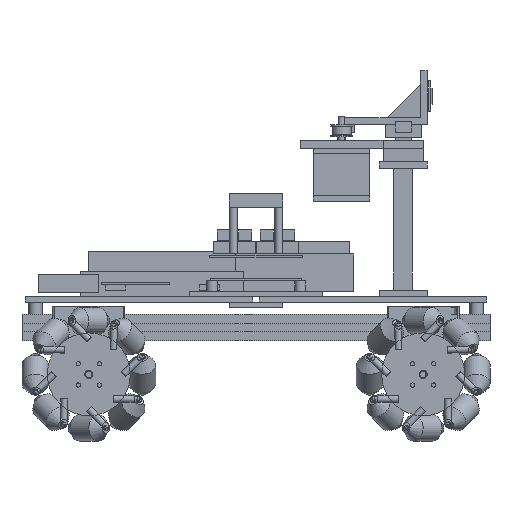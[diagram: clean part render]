
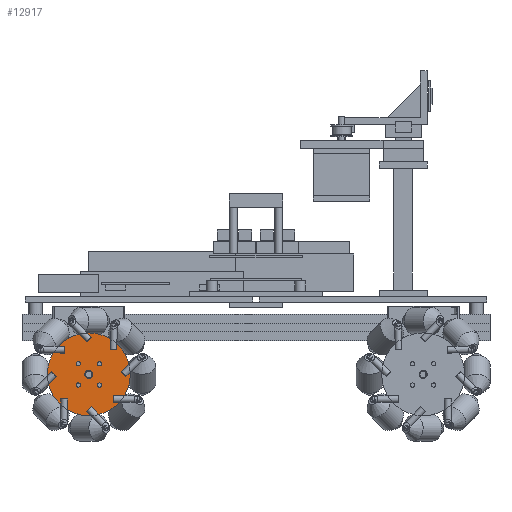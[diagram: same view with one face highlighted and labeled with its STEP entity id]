
A CAD part, front view. The second image highlights one B-rep face of the part: STEP entity #12917.
In plain terms, the highlighted planar face has unit normal (0, -1, 0).
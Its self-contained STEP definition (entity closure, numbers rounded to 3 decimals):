
#12833 = EDGE_CURVE('',#12834,#12834,#12836,.T.);
#12834 = VERTEX_POINT('',#12835);
#12835 = CARTESIAN_POINT('',(31.,-14.,0.));
#12836 = SURFACE_CURVE('',#12837,(#12842,#12854),.PCURVE_S1.);
#12837 = CIRCLE('',#12838,31.);
#12838 = AXIS2_PLACEMENT_3D('',#12839,#12840,#12841);
#12839 = CARTESIAN_POINT('',(0.,-14.,0.));
#12840 = DIRECTION('',(0.,-1.,0.));
#12841 = DIRECTION('',(1.,0.,0.));
#12842 = PCURVE('',#12843,#12848);
#12843 = CYLINDRICAL_SURFACE('',#12844,31.);
#12844 = AXIS2_PLACEMENT_3D('',#12845,#12846,#12847);
#12845 = CARTESIAN_POINT('',(0.,-11.,0.));
#12846 = DIRECTION('',(0.,-1.,0.));
#12847 = DIRECTION('',(1.,0.,0.));
#12848 = DEFINITIONAL_REPRESENTATION('',(#12849),#12853);
#12849 = LINE('',#12850,#12851);
#12850 = CARTESIAN_POINT('',(0.,3.));
#12851 = VECTOR('',#12852,1.);
#12852 = DIRECTION('',(1.,0.));
#12853 = ( GEOMETRIC_REPRESENTATION_CONTEXT(2) 
PARAMETRIC_REPRESENTATION_CONTEXT() REPRESENTATION_CONTEXT('2D SPACE',''
  ) );
#12854 = PCURVE('',#12855,#12860);
#12855 = PLANE('',#12856);
#12856 = AXIS2_PLACEMENT_3D('',#12857,#12858,#12859);
#12857 = CARTESIAN_POINT('',(0.,-14.,0.));
#12858 = DIRECTION('',(0.,-1.,0.));
#12859 = DIRECTION('',(1.,0.,0.));
#12860 = DEFINITIONAL_REPRESENTATION('',(#12861),#12865);
#12861 = CIRCLE('',#12862,31.);
#12862 = AXIS2_PLACEMENT_2D('',#12863,#12864);
#12863 = CARTESIAN_POINT('',(0.,0.));
#12864 = DIRECTION('',(1.,0.));
#12865 = ( GEOMETRIC_REPRESENTATION_CONTEXT(2) 
PARAMETRIC_REPRESENTATION_CONTEXT() REPRESENTATION_CONTEXT('2D SPACE',''
  ) );
#12917 = ADVANCED_FACE('',(#12918,#12921,#12952,#12983,#13014,#13045),
  #12855,.T.);
#12918 = FACE_BOUND('',#12919,.T.);
#12919 = EDGE_LOOP('',(#12920));
#12920 = ORIENTED_EDGE('',*,*,#12833,.T.);
#12921 = FACE_BOUND('',#12922,.T.);
#12922 = EDGE_LOOP('',(#12923));
#12923 = ORIENTED_EDGE('',*,*,#12924,.F.);
#12924 = EDGE_CURVE('',#12925,#12925,#12927,.T.);
#12925 = VERTEX_POINT('',#12926);
#12926 = CARTESIAN_POINT('',(-6.4,-14.,-8.));
#12927 = SURFACE_CURVE('',#12928,(#12933,#12940),.PCURVE_S1.);
#12928 = CIRCLE('',#12929,1.6);
#12929 = AXIS2_PLACEMENT_3D('',#12930,#12931,#12932);
#12930 = CARTESIAN_POINT('',(-8.,-14.,-8.));
#12931 = DIRECTION('',(0.,-1.,0.));
#12932 = DIRECTION('',(1.,0.,0.));
#12933 = PCURVE('',#12855,#12934);
#12934 = DEFINITIONAL_REPRESENTATION('',(#12935),#12939);
#12935 = CIRCLE('',#12936,1.6);
#12936 = AXIS2_PLACEMENT_2D('',#12937,#12938);
#12937 = CARTESIAN_POINT('',(-8.,-8.));
#12938 = DIRECTION('',(1.,0.));
#12939 = ( GEOMETRIC_REPRESENTATION_CONTEXT(2) 
PARAMETRIC_REPRESENTATION_CONTEXT() REPRESENTATION_CONTEXT('2D SPACE',''
  ) );
#12940 = PCURVE('',#12941,#12946);
#12941 = CYLINDRICAL_SURFACE('',#12942,1.6);
#12942 = AXIS2_PLACEMENT_3D('',#12943,#12944,#12945);
#12943 = CARTESIAN_POINT('',(-8.,20.,-8.));
#12944 = DIRECTION('',(0.,-1.,0.));
#12945 = DIRECTION('',(1.,0.,0.));
#12946 = DEFINITIONAL_REPRESENTATION('',(#12947),#12951);
#12947 = LINE('',#12948,#12949);
#12948 = CARTESIAN_POINT('',(0.,34.));
#12949 = VECTOR('',#12950,1.);
#12950 = DIRECTION('',(1.,0.));
#12951 = ( GEOMETRIC_REPRESENTATION_CONTEXT(2) 
PARAMETRIC_REPRESENTATION_CONTEXT() REPRESENTATION_CONTEXT('2D SPACE',''
  ) );
#12952 = FACE_BOUND('',#12953,.T.);
#12953 = EDGE_LOOP('',(#12954));
#12954 = ORIENTED_EDGE('',*,*,#12955,.F.);
#12955 = EDGE_CURVE('',#12956,#12956,#12958,.T.);
#12956 = VERTEX_POINT('',#12957);
#12957 = CARTESIAN_POINT('',(9.6,-14.,-8.));
#12958 = SURFACE_CURVE('',#12959,(#12964,#12971),.PCURVE_S1.);
#12959 = CIRCLE('',#12960,1.6);
#12960 = AXIS2_PLACEMENT_3D('',#12961,#12962,#12963);
#12961 = CARTESIAN_POINT('',(8.,-14.,-8.));
#12962 = DIRECTION('',(0.,-1.,0.));
#12963 = DIRECTION('',(1.,0.,0.));
#12964 = PCURVE('',#12855,#12965);
#12965 = DEFINITIONAL_REPRESENTATION('',(#12966),#12970);
#12966 = CIRCLE('',#12967,1.6);
#12967 = AXIS2_PLACEMENT_2D('',#12968,#12969);
#12968 = CARTESIAN_POINT('',(8.,-8.));
#12969 = DIRECTION('',(1.,0.));
#12970 = ( GEOMETRIC_REPRESENTATION_CONTEXT(2) 
PARAMETRIC_REPRESENTATION_CONTEXT() REPRESENTATION_CONTEXT('2D SPACE',''
  ) );
#12971 = PCURVE('',#12972,#12977);
#12972 = CYLINDRICAL_SURFACE('',#12973,1.6);
#12973 = AXIS2_PLACEMENT_3D('',#12974,#12975,#12976);
#12974 = CARTESIAN_POINT('',(8.,20.,-8.));
#12975 = DIRECTION('',(0.,-1.,0.));
#12976 = DIRECTION('',(1.,0.,0.));
#12977 = DEFINITIONAL_REPRESENTATION('',(#12978),#12982);
#12978 = LINE('',#12979,#12980);
#12979 = CARTESIAN_POINT('',(0.,34.));
#12980 = VECTOR('',#12981,1.);
#12981 = DIRECTION('',(1.,0.));
#12982 = ( GEOMETRIC_REPRESENTATION_CONTEXT(2) 
PARAMETRIC_REPRESENTATION_CONTEXT() REPRESENTATION_CONTEXT('2D SPACE',''
  ) );
#12983 = FACE_BOUND('',#12984,.T.);
#12984 = EDGE_LOOP('',(#12985));
#12985 = ORIENTED_EDGE('',*,*,#12986,.F.);
#12986 = EDGE_CURVE('',#12987,#12987,#12989,.T.);
#12987 = VERTEX_POINT('',#12988);
#12988 = CARTESIAN_POINT('',(3.,-14.,0.));
#12989 = SURFACE_CURVE('',#12990,(#12995,#13002),.PCURVE_S1.);
#12990 = CIRCLE('',#12991,3.);
#12991 = AXIS2_PLACEMENT_3D('',#12992,#12993,#12994);
#12992 = CARTESIAN_POINT('',(0.,-14.,0.));
#12993 = DIRECTION('',(0.,-1.,0.));
#12994 = DIRECTION('',(1.,0.,0.));
#12995 = PCURVE('',#12855,#12996);
#12996 = DEFINITIONAL_REPRESENTATION('',(#12997),#13001);
#12997 = CIRCLE('',#12998,3.);
#12998 = AXIS2_PLACEMENT_2D('',#12999,#13000);
#12999 = CARTESIAN_POINT('',(0.,0.));
#13000 = DIRECTION('',(1.,0.));
#13001 = ( GEOMETRIC_REPRESENTATION_CONTEXT(2) 
PARAMETRIC_REPRESENTATION_CONTEXT() REPRESENTATION_CONTEXT('2D SPACE',''
  ) );
#13002 = PCURVE('',#13003,#13008);
#13003 = CYLINDRICAL_SURFACE('',#13004,3.);
#13004 = AXIS2_PLACEMENT_3D('',#13005,#13006,#13007);
#13005 = CARTESIAN_POINT('',(0.,20.,0.));
#13006 = DIRECTION('',(0.,-1.,0.));
#13007 = DIRECTION('',(1.,0.,0.));
#13008 = DEFINITIONAL_REPRESENTATION('',(#13009),#13013);
#13009 = LINE('',#13010,#13011);
#13010 = CARTESIAN_POINT('',(0.,34.));
#13011 = VECTOR('',#13012,1.);
#13012 = DIRECTION('',(1.,0.));
#13013 = ( GEOMETRIC_REPRESENTATION_CONTEXT(2) 
PARAMETRIC_REPRESENTATION_CONTEXT() REPRESENTATION_CONTEXT('2D SPACE',''
  ) );
#13014 = FACE_BOUND('',#13015,.T.);
#13015 = EDGE_LOOP('',(#13016));
#13016 = ORIENTED_EDGE('',*,*,#13017,.F.);
#13017 = EDGE_CURVE('',#13018,#13018,#13020,.T.);
#13018 = VERTEX_POINT('',#13019);
#13019 = CARTESIAN_POINT('',(-6.4,-14.,8.));
#13020 = SURFACE_CURVE('',#13021,(#13026,#13033),.PCURVE_S1.);
#13021 = CIRCLE('',#13022,1.6);
#13022 = AXIS2_PLACEMENT_3D('',#13023,#13024,#13025);
#13023 = CARTESIAN_POINT('',(-8.,-14.,8.));
#13024 = DIRECTION('',(0.,-1.,0.));
#13025 = DIRECTION('',(1.,0.,0.));
#13026 = PCURVE('',#12855,#13027);
#13027 = DEFINITIONAL_REPRESENTATION('',(#13028),#13032);
#13028 = CIRCLE('',#13029,1.6);
#13029 = AXIS2_PLACEMENT_2D('',#13030,#13031);
#13030 = CARTESIAN_POINT('',(-8.,8.));
#13031 = DIRECTION('',(1.,0.));
#13032 = ( GEOMETRIC_REPRESENTATION_CONTEXT(2) 
PARAMETRIC_REPRESENTATION_CONTEXT() REPRESENTATION_CONTEXT('2D SPACE',''
  ) );
#13033 = PCURVE('',#13034,#13039);
#13034 = CYLINDRICAL_SURFACE('',#13035,1.6);
#13035 = AXIS2_PLACEMENT_3D('',#13036,#13037,#13038);
#13036 = CARTESIAN_POINT('',(-8.,20.,8.));
#13037 = DIRECTION('',(0.,-1.,0.));
#13038 = DIRECTION('',(1.,0.,0.));
#13039 = DEFINITIONAL_REPRESENTATION('',(#13040),#13044);
#13040 = LINE('',#13041,#13042);
#13041 = CARTESIAN_POINT('',(0.,34.));
#13042 = VECTOR('',#13043,1.);
#13043 = DIRECTION('',(1.,0.));
#13044 = ( GEOMETRIC_REPRESENTATION_CONTEXT(2) 
PARAMETRIC_REPRESENTATION_CONTEXT() REPRESENTATION_CONTEXT('2D SPACE',''
  ) );
#13045 = FACE_BOUND('',#13046,.T.);
#13046 = EDGE_LOOP('',(#13047));
#13047 = ORIENTED_EDGE('',*,*,#13048,.F.);
#13048 = EDGE_CURVE('',#13049,#13049,#13051,.T.);
#13049 = VERTEX_POINT('',#13050);
#13050 = CARTESIAN_POINT('',(9.6,-14.,8.));
#13051 = SURFACE_CURVE('',#13052,(#13057,#13064),.PCURVE_S1.);
#13052 = CIRCLE('',#13053,1.6);
#13053 = AXIS2_PLACEMENT_3D('',#13054,#13055,#13056);
#13054 = CARTESIAN_POINT('',(8.,-14.,8.));
#13055 = DIRECTION('',(0.,-1.,0.));
#13056 = DIRECTION('',(1.,0.,0.));
#13057 = PCURVE('',#12855,#13058);
#13058 = DEFINITIONAL_REPRESENTATION('',(#13059),#13063);
#13059 = CIRCLE('',#13060,1.6);
#13060 = AXIS2_PLACEMENT_2D('',#13061,#13062);
#13061 = CARTESIAN_POINT('',(8.,8.));
#13062 = DIRECTION('',(1.,0.));
#13063 = ( GEOMETRIC_REPRESENTATION_CONTEXT(2) 
PARAMETRIC_REPRESENTATION_CONTEXT() REPRESENTATION_CONTEXT('2D SPACE',''
  ) );
#13064 = PCURVE('',#13065,#13070);
#13065 = CYLINDRICAL_SURFACE('',#13066,1.6);
#13066 = AXIS2_PLACEMENT_3D('',#13067,#13068,#13069);
#13067 = CARTESIAN_POINT('',(8.,20.,8.));
#13068 = DIRECTION('',(0.,-1.,0.));
#13069 = DIRECTION('',(1.,0.,0.));
#13070 = DEFINITIONAL_REPRESENTATION('',(#13071),#13075);
#13071 = LINE('',#13072,#13073);
#13072 = CARTESIAN_POINT('',(0.,34.));
#13073 = VECTOR('',#13074,1.);
#13074 = DIRECTION('',(1.,0.));
#13075 = ( GEOMETRIC_REPRESENTATION_CONTEXT(2) 
PARAMETRIC_REPRESENTATION_CONTEXT() REPRESENTATION_CONTEXT('2D SPACE',''
  ) );
